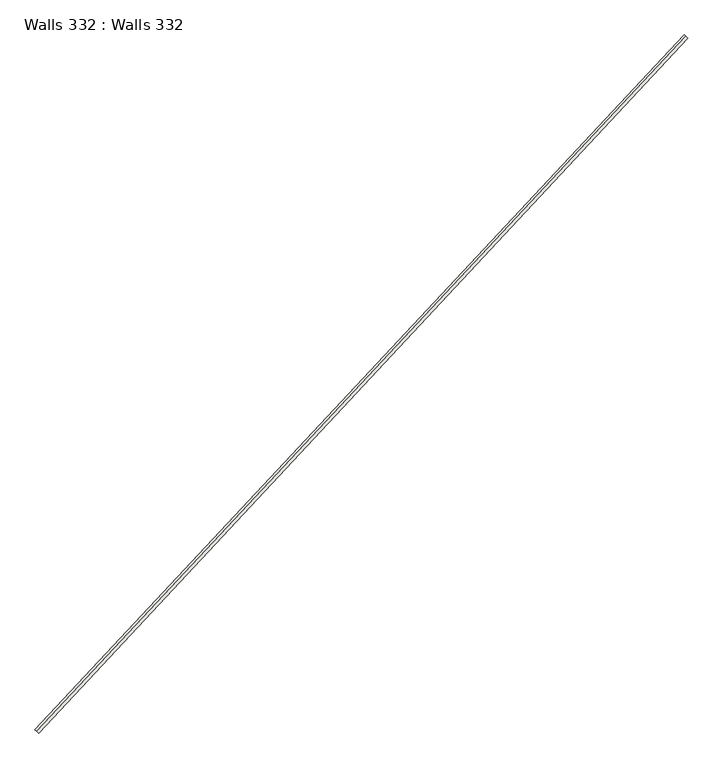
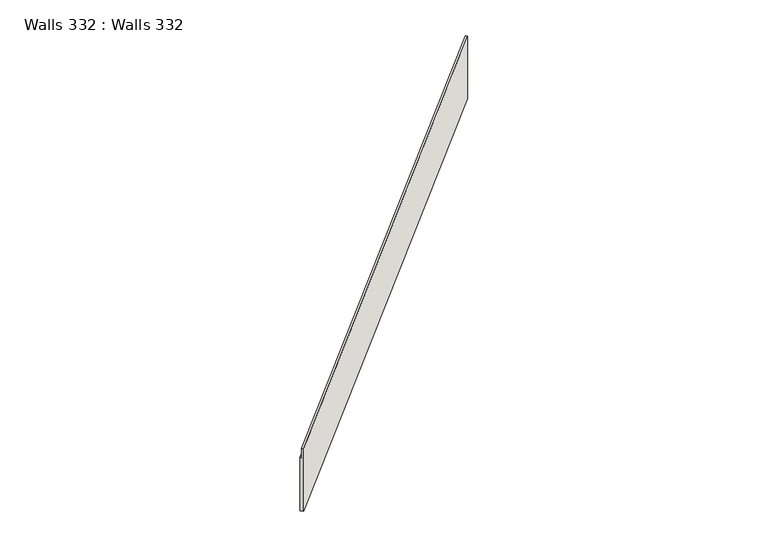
"""IFC4 building model written with IfcOpenShell, lengths in millimetres: wall geometry, Walls 332 : Walls 332."""

from ifc_helpers import new_model, si_unit, origin, place, context, project, spatial, faceted_brep, source, transform, mapped, element, save


def walls_332_walls_332_f8d04690(model_context):
    return source(origin(), model_context, "Body", "Brep", [
        faceted_brep([(-231008.0618471, -355050.7143825, 635090.0), (-231008.0618471, -355050.7143825, 641877.0), (-231154.1787695, -354914.1499472, 641877.0), (-231154.1787695, -354914.1499472, 640877.0), (-231263.7664613, -354811.7266208, 640877.0), (-231263.7664613, -354811.7266208, 635090.0), (-186793.9664579, -307743.9061909, 635854.0), (-187049.6710721, -307504.9184292, 635854.0), (-187049.6710721, -307504.9184292, 641688.0), (-186940.0833803, -307607.3417556, 641688.0), (-186940.0833803, -307607.3417556, 642688.0), (-186793.9664579, -307743.9061909, 642688.0)], [[[0, 1, 2, 3, 4, 5]], [[6, 7, 8, 9, 10, 11]], [[6, 11, 1, 0]], [[11, 10, 2, 1]], [[10, 9, 3, 2]], [[9, 8, 4, 3]], [[8, 7, 5, 4]], [[7, 6, 0, 5]]]),
    ])


if __name__ == "__main__":
    model = new_model("IFC4")
    model_context = context("Model", 3, world=origin())
    ifc_project = project(units=[si_unit("LENGTHUNIT", "METRE", prefix="MILLI")], contexts=[model_context])
    site = spatial("IfcSite", under=ifc_project)
    building = spatial("IfcBuilding", under=site)
    placement = place(None, origin())
    walls_332_walls_332_shape = walls_332_walls_332_f8d04690(model_context)
    element("IfcWall", 1, ObjectType="Walls 332 : Walls 332", at=placement, inside=building, context=model_context, shape_type="MappedRepresentation", body=[
        mapped(walls_332_walls_332_shape, transform((0.0, 0.0, 0.0), x_axis=(1.0, 0.0, 0.0), y_axis=(0.0, 1.0, 0.0), z_axis=(0.0, 0.0, 1.0))),
    ])
    save(model, "model.ifc")
